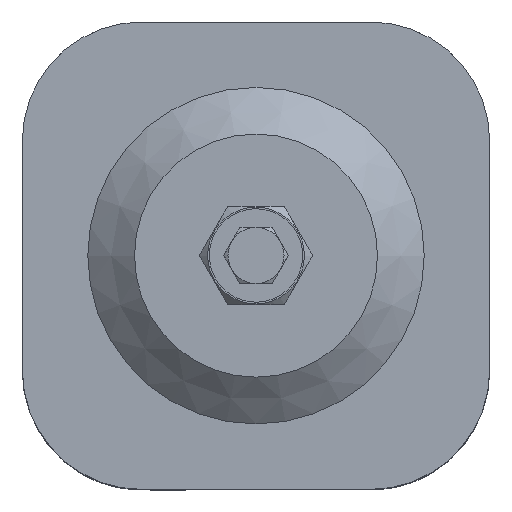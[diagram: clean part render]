
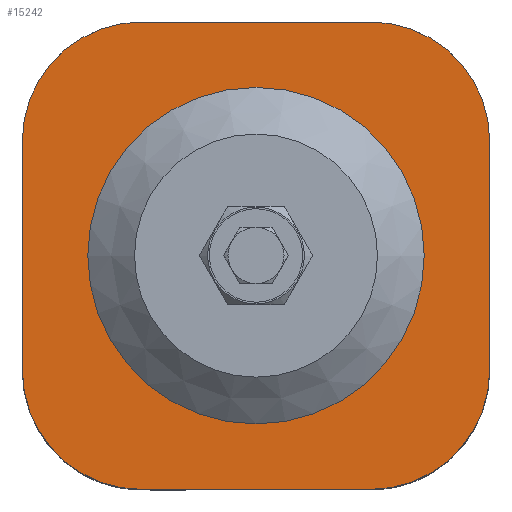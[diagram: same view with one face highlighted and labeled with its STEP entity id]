
A CAD part, top view. The second image highlights one B-rep face of the part: STEP entity #15242.
In plain terms, the highlighted planar face has unit normal (0, 0, 1).
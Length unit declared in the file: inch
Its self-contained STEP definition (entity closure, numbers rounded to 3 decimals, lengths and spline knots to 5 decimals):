
#156=FACE_BOUND($,#2142,.T.);
#157=FACE_BOUND($,#2143,.T.);
#367=PLANE($,#16252);
#2142=EDGE_LOOP($,(#11089));
#2143=EDGE_LOOP($,(#11090,#11091,#11092,#11093,#11094,#11095,#11096,#11097));
#3235=LINE($,#21927,#5129);
#3238=LINE($,#21935,#5132);
#3241=LINE($,#21943,#5135);
#3243=LINE($,#21949,#5137);
#5129=VECTOR($,#17623,3.0625);
#5132=VECTOR($,#17632,3.0625);
#5135=VECTOR($,#17641,3.0625);
#5137=VECTOR($,#17649,3.0625);
#7023=CIRCLE($,#16216,2.25);
#7032=CIRCLE($,#16241,1.59375);
#7033=CIRCLE($,#16244,1.59375);
#7034=CIRCLE($,#16247,1.59375);
#7035=CIRCLE($,#16250,1.59375);
#7263=VERTEX_POINT($,#21859);
#7280=VERTEX_POINT($,#21919);
#7281=VERTEX_POINT($,#21921);
#7282=VERTEX_POINT($,#21925);
#7283=VERTEX_POINT($,#21929);
#7284=VERTEX_POINT($,#21933);
#7285=VERTEX_POINT($,#21937);
#7286=VERTEX_POINT($,#21941);
#7287=VERTEX_POINT($,#21945);
#8733=EDGE_CURVE($,#7263,#7263,#7023,.T.);
#8761=EDGE_CURVE($,#7280,#7281,#7032,.T.);
#8764=EDGE_CURVE($,#7282,#7280,#3235,.T.);
#8766=EDGE_CURVE($,#7283,#7282,#7033,.T.);
#8768=EDGE_CURVE($,#7284,#7283,#3238,.T.);
#8770=EDGE_CURVE($,#7285,#7284,#7034,.T.);
#8772=EDGE_CURVE($,#7286,#7285,#3241,.T.);
#8774=EDGE_CURVE($,#7287,#7286,#7035,.T.);
#8775=EDGE_CURVE($,#7281,#7287,#3243,.T.);
#11089=ORIENTED_EDGE($,*,*,#8733,.T.);
#11090=ORIENTED_EDGE($,*,*,#8775,.F.);
#11091=ORIENTED_EDGE($,*,*,#8761,.F.);
#11092=ORIENTED_EDGE($,*,*,#8764,.F.);
#11093=ORIENTED_EDGE($,*,*,#8766,.F.);
#11094=ORIENTED_EDGE($,*,*,#8768,.F.);
#11095=ORIENTED_EDGE($,*,*,#8770,.F.);
#11096=ORIENTED_EDGE($,*,*,#8772,.F.);
#11097=ORIENTED_EDGE($,*,*,#8774,.F.);
#15242=ADVANCED_FACE($,(#156,#157),#367,.T.);
#16216=AXIS2_PLACEMENT_3D($,#21860,#17548,#17549);
#16241=AXIS2_PLACEMENT_3D($,#21922,#17617,#17618);
#16244=AXIS2_PLACEMENT_3D($,#21931,#17627,#17628);
#16247=AXIS2_PLACEMENT_3D($,#21939,#17636,#17637);
#16250=AXIS2_PLACEMENT_3D($,#21947,#17645,#17646);
#16252=AXIS2_PLACEMENT_3D($,#21950,#17650,#17651);
#17548=DIRECTION('center_axis',(0.,0.,-1.));
#17549=DIRECTION('ref_axis',(1.,0.,0.));
#17617=DIRECTION('center_axis',(0.,0.,-1.));
#17618=DIRECTION('ref_axis',(0.,-1.,0.));
#17623=DIRECTION($,(0.,1.,0.));
#17627=DIRECTION('center_axis',(0.,0.,-1.));
#17628=DIRECTION('ref_axis',(1.,0.,0.));
#17632=DIRECTION($,(-1.,0.,0.));
#17636=DIRECTION('center_axis',(0.,0.,-1.));
#17637=DIRECTION('ref_axis',(0.,1.,0.));
#17641=DIRECTION($,(0.,-1.,0.));
#17645=DIRECTION('center_axis',(0.,0.,-1.));
#17646=DIRECTION('ref_axis',(-1.,0.,0.));
#17649=DIRECTION($,(1.,0.,0.));
#17650=DIRECTION('center_axis',(0.,0.,1.));
#17651=DIRECTION('ref_axis',(1.,0.,0.));
#21859=CARTESIAN_POINT('',(-2.25,0.,0.));
#21860=CARTESIAN_POINT('Origin',(0.,0.,0.));
#21919=CARTESIAN_POINT('',(-3.125,1.53125,0.));
#21921=CARTESIAN_POINT('',(-1.53125,3.125,0.));
#21922=CARTESIAN_POINT('Origin',(-1.53125,1.53125,0.));
#21925=CARTESIAN_POINT('',(-3.125,-1.53125,0.));
#21927=CARTESIAN_POINT($,(-3.125,-1.53125,0.));
#21929=CARTESIAN_POINT('',(-1.53125,-3.125,0.));
#21931=CARTESIAN_POINT('Origin',(-1.53125,-1.53125,0.));
#21933=CARTESIAN_POINT('',(1.53125,-3.125,0.));
#21935=CARTESIAN_POINT($,(1.53125,-3.125,0.));
#21937=CARTESIAN_POINT('',(3.125,-1.53125,0.));
#21939=CARTESIAN_POINT('Origin',(1.53125,-1.53125,0.));
#21941=CARTESIAN_POINT('',(3.125,1.53125,0.));
#21943=CARTESIAN_POINT($,(3.125,1.53125,0.));
#21945=CARTESIAN_POINT('',(1.53125,3.125,0.));
#21947=CARTESIAN_POINT('Origin',(1.53125,1.53125,0.));
#21949=CARTESIAN_POINT($,(-1.53125,3.125,0.));
#21950=CARTESIAN_POINT('Origin',(0.,0.,
0.));
